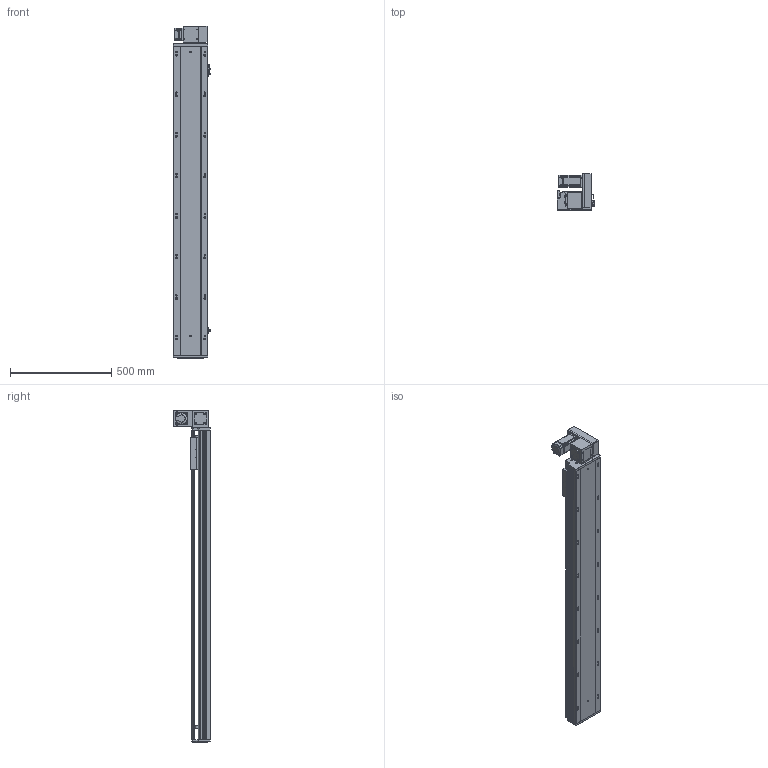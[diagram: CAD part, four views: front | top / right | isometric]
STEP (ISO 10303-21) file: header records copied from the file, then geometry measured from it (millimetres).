
FILE_DESCRIPTION (( 'STEP AP203' ), '1' );
FILE_NAME ('RY170-T-300-UR-P400W.SLDASM_1250.step', '2021-03-01T09:27:59', ( '盈信电脑' ), ( '东莞市道滘镇水果街19号' ), 'SwSTEP 2.0', 'SolidWorks 2012', '' );
FILE_SCHEMA (( 'CONFIG_CONTROL_DESIGN' ));
Length unit declared in the file: millimetre
Products named in the file (18): 15; RY170-T-300-UR-P400W.SLDASM_1250; RY170-T肮祭謫裔啣; RY170-T蹟翐M4; RY120-T主同步轮轴承压盖; 滅袉蝶18-10; RY170-T肮祭湍揤踡輸2; RY170同步轮电机安装板(400W); RY170肮祭謫萇儂欶; RY170-T肮祭湍揤踡輸1; RY170外置感应片(200共用）; 覜茼ん672; RY170翋肮祭謫釱; RY170肮祭謫ヶ裔啣; RY170肮祭湍臏賑輸; RY170-T-300肮祭謫倰第裔啣-DR_1250; RY170綴裔啣; RY170-T-300肮祭謫倰第菁釱-DR_1250
Assembly tree (22 placements, depth 2):
  RY170-T-300-UR-P400W.SLDASM_1250
    RY170-T-300肮祭謫倰第菁釱-DR_1250
    RY170肮祭湍臏賑輸
    RY170-T-300肮祭謫倰第裔啣-DR_1250
    RY170綴裔啣
    覜茼ん672  x3
    RY170外置感应片(200共用）
    RY170肮祭謫ヶ裔啣
    RY170翋肮祭謫釱
    RY170同步轮电机安装板(400W)
    RY170肮祭謫萇儂欶
    RY170-T肮祭湍揤踡輸1  x2
    RY170-T肮祭湍揤踡輸2  x2
    RY120-T主同步轮轴承压盖
    RY170-T肮祭謫裔啣
    RY170-T蹟翐M4
    滅袉蝶18-10  x2
    15
Bounding box: 183.7 x 182 x 1638 mm (x, y, z)
Volume: 7962695.8 mm3; surface area: 2713069.6 mm2
Topology: 22 solids, 22 shells, 2804 faces, 7782 edges, 4983 vertices
Faces by surface type: plane 1262, cylinder 1256, cone 256, bspline 30
Entity records: 83576 total; most frequent: CARTESIAN_POINT 18621, ORIENTED_EDGE 13232, DIRECTION 13040, EDGE_CURVE 6616, AXIS2_PLACEMENT_3D 4592, VERTEX_POINT 4339, VECTOR 3856, LINE 3856
